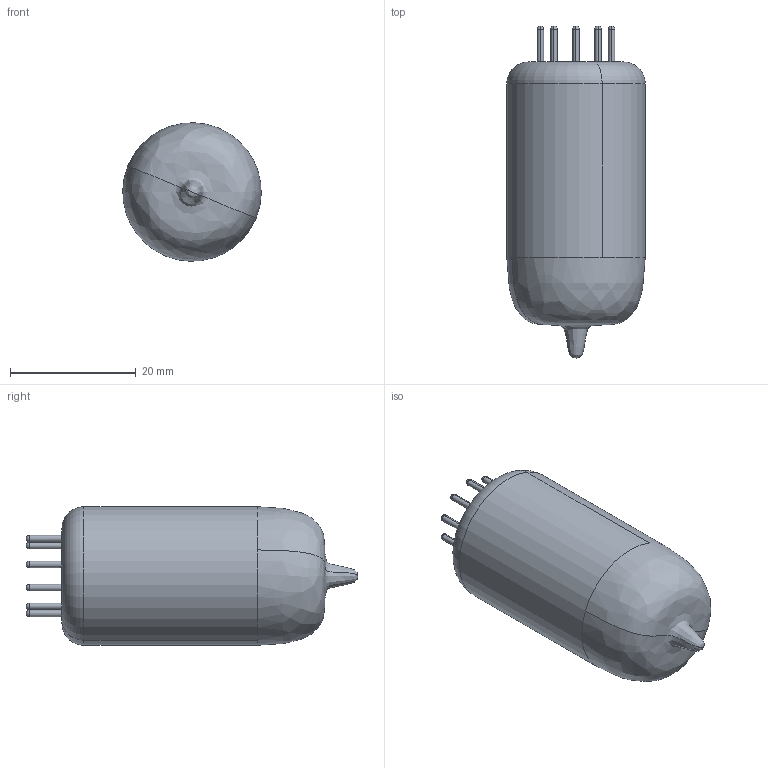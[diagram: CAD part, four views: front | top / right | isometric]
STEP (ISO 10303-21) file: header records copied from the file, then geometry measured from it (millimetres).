
FILE_DESCRIPTION (( 'STEP AP214' ), '1' );
FILE_NAME ('ECC88.STEP', '2012-02-19T15:44:11', ( 'stein' ), ( '' ), 'SwSTEP 2.0', 'SolidWorks 2012', '' );
FILE_SCHEMA (( 'AUTOMOTIVE_DESIGN' ));
Length unit declared in the file: millimetre
Products named in the file (6): ECC88; ecc88_heater; ecc88_insulator; ecc88_reflector; ecc88_pins_Default[As Machined]; ecc88_balon
Assembly tree (6 placements, depth 2):
  ECC88
    ecc88_pins_Default[As Machined]
    ecc88_balon
    ecc88_insulator  x2
    ecc88_reflector
    ecc88_heater
Bounding box: 21.98 x 52.7 x 21.98 mm (x, y, z)
Volume: 2154.1 mm3; surface area: 9512.1 mm2
Topology: 25 solids, 26 shells, 464 faces, 1206 edges, 790 vertices
Faces by surface type: plane 228, cylinder 177, torus 33, bspline 22, cone 4
Entity records: 19674 total; most frequent: CARTESIAN_POINT 5749, DIRECTION 2364, ORIENTED_EDGE 2206, EDGE_CURVE 1103, AXIS2_PLACEMENT_3D 875, VERTEX_POINT 724, VECTOR 614, LINE 614
